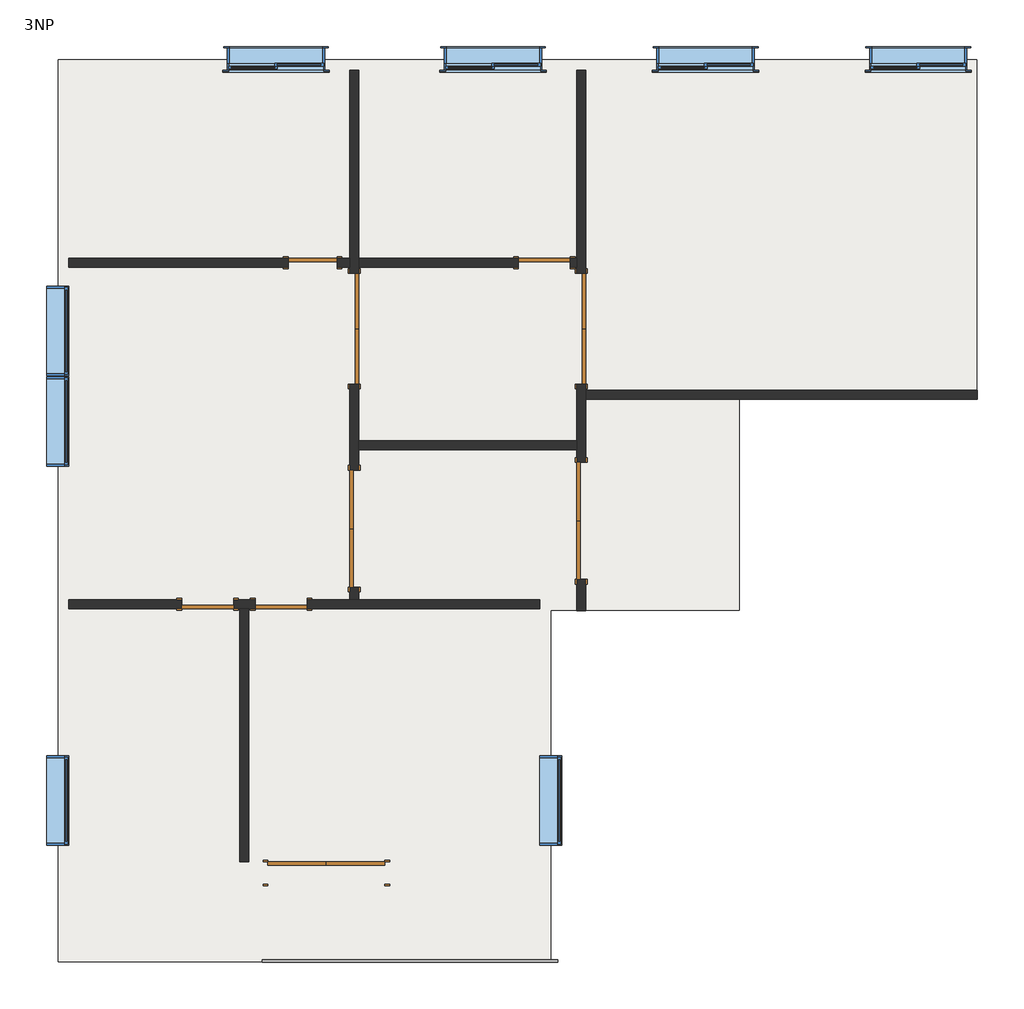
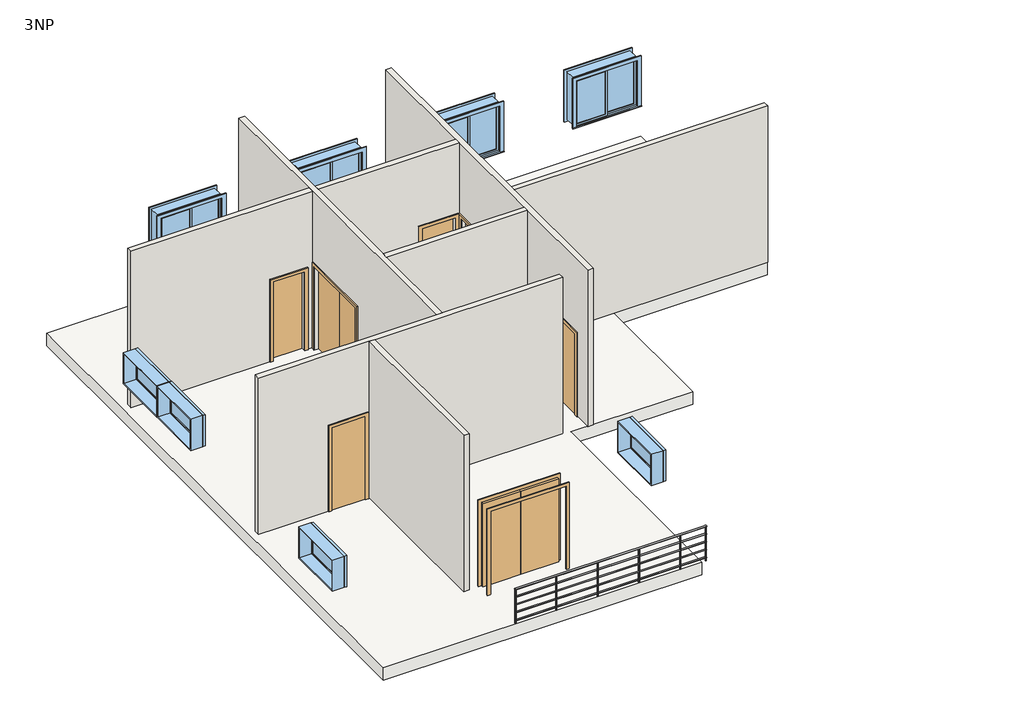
# One storey: 9 doors, 8 walls, 8 windows, 1 railing, 1 slab.
"""IFC4 building model written with IfcOpenShell, lengths in millimetres."""

from ifc_helpers import new_model, si_unit, frame, origin, place, context, project, spatial, polyline, outline, extrude, faceted_brep, transform, mapped, element, save
from components import m_double_flush_1730_x_2134mm_ea805d98, m_double_flush_1830_x_2083mm_7a28c534, m_double_flush_1830_x_2134mm_224c2c1d, m_single_flush_0762_x_2032mm_93de2473, m_single_flush_0813_x_2134mm_bf4bb56d, m_single_flush_0813_x_2134mm_cfdfac75, railing_900mm_pipe_c553a1ad, m_fixed_1400_x_0800mm_a23a53e8, m_sliding_with_trim_1830_x_1220mm_f8e2f31e

model = new_model("IFC4")

# Units and contexts
model_context = context("Model", 3, world=origin())
ifc_project = project(units=[si_unit("LENGTHUNIT", "METRE", prefix="MILLI")], contexts=[model_context])

# Site, building, storey
site = spatial("IfcSite", under=ifc_project)
building = spatial("IfcBuilding", under=site)
storey = spatial("IfcBuildingStorey", under=building, Name="3NP", Elevation=8000.0)

# Doors
placement = place(None, origin())
m_double_flush_1730_x_2134mm_shape = m_double_flush_1730_x_2134mm_ea805d98(model_context)
element("IfcDoor", 1, ObjectType="M_Double-Flush : 1730 x 2134mm", at=placement, inside=storey, context=model_context, shape_type="MappedRepresentation", body=[
    mapped(m_double_flush_1730_x_2134mm_shape, transform((833.993045, 5665.0261065, 8000.0), x_axis=(0.0, 1.0, 0.0), y_axis=(-1.0, 0.0, 0.0), z_axis=(0.0, 0.0, 1.0))),
])
element("IfcDoor", 2, ObjectType="M_Double-Flush : 1730 x 2134mm", at=placement, inside=storey, context=model_context, shape_type="MappedRepresentation", body=[
    mapped(m_double_flush_1730_x_2134mm_shape, transform((-2716.006955, 5665.0261065, 8000.0), x_axis=(0.0, 1.0, 0.0), y_axis=(-1.0, 0.0, 0.0), z_axis=(0.0, 0.0, 1.0))),
])
m_double_flush_1830_x_2083mm_shape = m_double_flush_1830_x_2083mm_7a28c534(model_context)
element("IfcDoor", 3, ObjectType="M_Double-Flush : 1830 x 2083mm", at=placement, inside=storey, context=model_context, shape_type="MappedRepresentation", body=[
    mapped(m_double_flush_1830_x_2083mm_shape, transform((-2716.006955, 2539.8026806, 8000.0), x_axis=(0.0, 1.0, 0.0), y_axis=(-1.0, 0.0, 0.0), z_axis=(0.0, 0.0, 1.0))),
])
element("IfcDoor", 4, ObjectType="M_Double-Flush : 1830 x 2083mm", at=placement, inside=storey, context=model_context, shape_type="MappedRepresentation", body=[
    mapped(m_double_flush_1830_x_2083mm_shape, transform((833.993045, 2658.1003657, 8000.0), x_axis=(0.0, 1.0, 0.0), y_axis=(-1.0, 0.0, 0.0), z_axis=(0.0, 0.0, 1.0))),
])
m_double_flush_1830_x_2134mm_shape = m_double_flush_1830_x_2134mm_224c2c1d(model_context)
element("IfcDoor", 5, ObjectType="M_Double-Flush : 1830 x 2134mm", at=placement, inside=storey, context=model_context, shape_type="MappedRepresentation", body=[
    mapped(m_double_flush_1830_x_2134mm_shape, transform((-3151.8077176, -2850.1973194, 8000.0), x_axis=(0.9999999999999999, 0.0, 0.0), y_axis=(0.0, 0.9999999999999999, 0.0), z_axis=(0.0, 0.0, 1.0))),
])
m_single_flush_0762_x_2032mm_shape = m_single_flush_0762_x_2032mm_93de2473(model_context)
element("IfcDoor", 6, ObjectType="M_Single-Flush : 0762 x 2032mm", at=placement, inside=storey, context=model_context, shape_type="MappedRepresentation", body=[
    mapped(m_single_flush_0762_x_2032mm_shape, transform((-3366.256955, 6699.2761065, 8000.0), x_axis=(1.0, 0.0, 0.0), y_axis=(0.0, 1.0, 0.0), z_axis=(0.0, 0.0, 1.0))),
])
m_single_flush_0813_x_2134mm_shape = m_single_flush_0813_x_2134mm_bf4bb56d(model_context)
element("IfcDoor", 7, ObjectType="M_Single-Flush : 0813 x 2134mm", at=placement, inside=storey, context=model_context, shape_type="MappedRepresentation", body=[
    mapped(m_single_flush_0813_x_2134mm_shape, transform((-5011.8077176, 1355.5526806, 8000.0), x_axis=(1.0, 0.0, 0.0), y_axis=(0.0, 1.0, 0.0), z_axis=(0.0, 0.0, 1.0))),
])
m_single_flush_0813_x_2134mm_2_shape = m_single_flush_0813_x_2134mm_cfdfac75(model_context)
element("IfcDoor", 8, ObjectType="M_Single-Flush : 0813 x 2134mm", at=placement, inside=storey, context=model_context, shape_type="MappedRepresentation", body=[
    mapped(m_single_flush_0813_x_2134mm_2_shape, transform((-3860.3077176, 1355.5526806, 8000.0), x_axis=(-1.0, 0.0, 0.0), y_axis=(0.0, -1.0, 0.0), z_axis=(0.0, 0.0, 1.0))),
])
element("IfcDoor", 9, ObjectType="M_Single-Flush : 0813 x 2134mm", at=placement, inside=storey, context=model_context, shape_type="MappedRepresentation", body=[
    mapped(m_single_flush_0813_x_2134mm_2_shape, transform((258.243045, 6699.2761065, 8000.0), x_axis=(1.0, 0.0, 0.0), y_axis=(0.0, 1.0, 0.0), z_axis=(0.0, 0.0, 1.0))),
])

# Railing
railing_900mm_pipe_shape = railing_900mm_pipe_c553a1ad(model_context)
element("IfcRailing", 10, ObjectType="900mm Pipe", at=placement, inside=storey, context=model_context, shape_type="MappedRepresentation", body=[
    mapped(railing_900mm_pipe_shape, transform((0.0, 0.0, 0.0), x_axis=(1.0, 0.0, 0.0), y_axis=(0.0, 1.0, 0.0), z_axis=(0.0, 0.0, 1.0))),
])

# Slab
element("IfcSlab", 11, ObjectType="Residential 320mm", at=placement, inside=storey, context=model_context, shape_type="SweptSolid", body=[
    extrude(outline(polyline([(-7345.3077176, 9876.6003657), (7023.993045, 9876.6003657), (7023.993045, 4561.5261065), (3308.993045, 4561.5261065), (3308.993045, 1259.8026806), (357.3775179, 1259.8026806), (357.3775179, -4240.1973194), (-7345.3077176, -4240.1973194), (-7345.3077176, 9876.6003657)])), frame((0.0, 0.0, 7680.0), z_axis=(0.0, 0.0, 1.0), x_axis=(1.0, 0.0, 0.0)), (0.0, 0.0, 1.0), 320.0),
])

# Walls
element("IfcWall", 12, ObjectType="Interior - 138mm Partition (1-hr)", at=placement, inside=storey, context=model_context, shape_type="Brep", body=[
    faceted_brep([(-4266.8077176, 1424.8026806, 10134.0), (-4266.8077176, 1424.8026806, 8000.0), (-4605.3077176, 1424.8026806, 8000.0), (-4605.3077176, 1424.8026806, 10134.0), (-5418.3077176, 1424.8026806, 10134.0), (-5418.3077176, 1424.8026806, 8000.0), (-7180.3077176, 1424.8026806, 8000.0), (-7180.3077176, 1424.8026806, 12000.0), (-2785.256955, 1424.8026806, 12000.0), (-2646.756955, 1424.8026806, 12000.0), (182.3775179, 1424.8026806, 12000.0), (182.3775179, 1424.8026806, 8000.0), (-2646.756955, 1424.8026806, 8000.0), (-2785.256955, 1424.8026806, 8000.0), (-3453.8077176, 1424.8026806, 8000.0), (-3453.8077176, 1424.8026806, 10134.0), (-4605.3077176, 1286.3026806, 8000.0), (-4505.3077176, 1286.3026806, 8000.0), (-4366.8077176, 1286.3026806, 8000.0), (-4266.8077176, 1286.3026806, 8000.0), (-4266.8077176, 1286.3026806, 10134.0), (-3453.8077176, 1286.3026806, 10134.0), (-3453.8077176, 1286.3026806, 8000.0), (182.3775179, 1286.3026806, 8000.0), (182.3775179, 1286.3026806, 12000.0), (-4366.8077176, 1286.3026806, 12000.0), (-4505.3077176, 1286.3026806, 12000.0), (-7180.3077176, 1286.3026806, 12000.0), (-7180.3077176, 1286.3026806, 8000.0), (-5418.3077176, 1286.3026806, 8000.0), (-5418.3077176, 1286.3026806, 10134.0), (-4605.3077176, 1286.3026806, 10134.0)], [[[0, 1, 2, 3, 4, 5, 6, 7, 8, 9, 10, 11, 12, 13, 14, 15]], [[16, 17, 18, 19, 20, 21, 22, 23, 24, 25, 26, 27, 28, 29, 30, 31]], [[2, 1, 19, 18, 17, 16]], [[29, 28, 6, 5]], [[14, 13, 12, 11, 23, 22]], [[10, 9, 8, 7, 27, 26, 25, 24]], [[7, 6, 28, 27]], [[11, 10, 24, 23]], [[3, 2, 16, 31]], [[4, 3, 31, 30]], [[5, 4, 30, 29]], [[20, 19, 1, 0]], [[21, 20, 0, 15]], [[22, 21, 15, 14]]]),
])
element("IfcWall", 13, ObjectType="Interior - 138mm Partition (1-hr)", at=placement, inside=storey, context=model_context, shape_type="SweptSolid", body=[
    extrude(outline(polyline([(-4505.3077176, -2675.1973194), (-4505.3077176, 1286.3026806), (-4366.8077176, 1286.3026806), (-4366.8077176, -2675.1973194), (-4505.3077176, -2675.1973194)])), frame((0.0, 0.0, 8000.0), z_axis=(0.0, 0.0, 1.0), x_axis=(1.0, 0.0, 0.0)), (0.0, 0.0, 1.0), 4000.0),
])
element("IfcWall", 14, ObjectType="Interior - 138mm Partition (1-hr)", at=placement, inside=storey, context=model_context, shape_type="Brep", body=[
    faceted_brep([(903.243045, 3573.1003657, 10083.0), (903.243045, 3573.1003657, 8000.0), (903.243045, 4561.5261065, 8000.0), (903.243045, 4700.0261065, 8000.0), (903.243045, 4800.0261065, 8000.0), (903.243045, 4800.0261065, 10134.0), (903.243045, 6530.0261065, 10134.0), (903.243045, 6530.0261065, 8000.0), (903.243045, 9711.6003657, 8000.0), (903.243045, 9711.6003657, 12000.0), (903.243045, 4700.0261065, 12000.0), (903.243045, 4561.5261065, 12000.0), (903.243045, 1249.8026806, 12000.0), (903.243045, 1249.8026806, 8000.0), (903.243045, 1743.1003657, 8000.0), (903.243045, 1743.1003657, 10083.0), (764.743045, 4800.0261065, 8000.0), (764.743045, 3911.6003657, 8000.0), (764.743045, 3773.1003657, 8000.0), (764.743045, 3573.1003657, 8000.0), (764.743045, 3573.1003657, 10083.0), (764.743045, 1743.1003657, 10083.0), (764.743045, 1743.1003657, 8000.0), (764.743045, 1249.8026806, 8000.0), (764.743045, 1249.8026806, 12000.0), (764.743045, 3773.1003657, 12000.0), (764.743045, 3911.6003657, 12000.0), (764.743045, 6630.0261065, 12000.0), (764.743045, 6768.5261065, 12000.0), (764.743045, 9711.6003657, 12000.0), (764.743045, 9711.6003657, 8000.0), (764.743045, 6768.5261065, 8000.0), (764.743045, 6630.0261065, 8000.0), (764.743045, 6530.0261065, 8000.0), (764.743045, 6530.0261065, 10134.0), (764.743045, 4800.0261065, 10134.0), (833.993045, 9711.6003657, 8000.0), (833.993045, 9711.6003657, 12000.0)], [[[0, 1, 2, 3, 4, 5, 6, 7, 8, 9, 10, 11, 12, 13, 14, 15]], [[16, 17, 18, 19, 20, 21, 22, 23, 24, 25, 26, 27, 28, 29, 30, 31, 32, 33, 34, 35]], [[8, 7, 33, 32, 31, 30, 36]], [[4, 3, 2, 1, 19, 18, 17, 16]], [[14, 13, 23, 22]], [[12, 11, 10, 9, 37, 29, 28, 27, 26, 25, 24]], [[13, 12, 24, 23]], [[9, 8, 36, 30, 29, 37]], [[34, 33, 7, 6]], [[35, 34, 6, 5]], [[16, 35, 5, 4]], [[20, 19, 1, 0]], [[21, 20, 0, 15]], [[22, 21, 15, 14]]]),
])
element("IfcWall", 15, ObjectType="Interior - 138mm Partition (1-hr)", at=placement, inside=storey, context=model_context, shape_type="SweptSolid", body=[
    extrude(outline(polyline([(-2646.756955, 3911.6003657), (764.743045, 3911.6003657), (764.743045, 3773.1003657), (-2646.756955, 3773.1003657), (-2646.756955, 3911.6003657)])), frame((0.0, 0.0, 8000.0), z_axis=(0.0, 0.0, 1.0), x_axis=(1.0, 0.0, 0.0)), (0.0, 0.0, 1.0), 4000.0),
])
element("IfcWall", 16, ObjectType="Interior - 138mm Partition (1-hr)", at=placement, inside=storey, context=model_context, shape_type="Brep", body=[
    faceted_brep([(-2646.756955, 3454.8026806, 10083.0), (-2646.756955, 3454.8026806, 8000.0), (-2646.756955, 3773.1003657, 8000.0), (-2646.756955, 3911.6003657, 8000.0), (-2646.756955, 4800.0261065, 8000.0), (-2646.756955, 4800.0261065, 10134.0), (-2646.756955, 6530.0261065, 10134.0), (-2646.756955, 6530.0261065, 8000.0), (-2646.756955, 6630.0261065, 8000.0), (-2646.756955, 6768.5261065, 8000.0), (-2646.756955, 9711.6003657, 8000.0), (-2646.756955, 9711.6003657, 12000.0), (-2646.756955, 6768.5261065, 12000.0), (-2646.756955, 6630.0261065, 12000.0), (-2646.756955, 3911.6003657, 12000.0), (-2646.756955, 3773.1003657, 12000.0), (-2646.756955, 1424.8026806, 12000.0), (-2646.756955, 1424.8026806, 8000.0), (-2646.756955, 1624.8026806, 8000.0), (-2646.756955, 1624.8026806, 10083.0), (-2785.256955, 4800.0261065, 8000.0), (-2785.256955, 3454.8026806, 8000.0), (-2785.256955, 3454.8026806, 10083.0), (-2785.256955, 1624.8026806, 10083.0), (-2785.256955, 1624.8026806, 8000.0), (-2785.256955, 1424.8026806, 8000.0), (-2785.256955, 1424.8026806, 12000.0), (-2785.256955, 6630.0261065, 12000.0), (-2785.256955, 6768.5261065, 12000.0), (-2785.256955, 9711.6003657, 12000.0), (-2785.256955, 9711.6003657, 8000.0), (-2785.256955, 6768.5261065, 8000.0), (-2785.256955, 6630.0261065, 8000.0), (-2785.256955, 6530.0261065, 8000.0), (-2785.256955, 6530.0261065, 10134.0), (-2785.256955, 4800.0261065, 10134.0)], [[[0, 1, 2, 3, 4, 5, 6, 7, 8, 9, 10, 11, 12, 13, 14, 15, 16, 17, 18, 19]], [[20, 21, 22, 23, 24, 25, 26, 27, 28, 29, 30, 31, 32, 33, 34, 35]], [[10, 9, 8, 7, 33, 32, 31, 30]], [[4, 3, 2, 1, 21, 20]], [[18, 17, 25, 24]], [[16, 15, 14, 13, 12, 11, 29, 28, 27, 26]], [[17, 16, 26, 25]], [[11, 10, 30, 29]], [[34, 33, 7, 6]], [[35, 34, 6, 5]], [[20, 35, 5, 4]], [[22, 21, 1, 0]], [[23, 22, 0, 19]], [[24, 23, 19, 18]]]),
])
element("IfcWall", 17, ObjectType="Interior - 138mm Partition (1-hr)", at=placement, inside=storey, context=model_context, shape_type="SweptSolid", body=[
    extrude(outline(polyline([(10134.0, 664.743045), (8000.0, 664.743045), (8000.0, 764.743045), (12000.0, 764.743045), (12000.0, -2646.756955), (8000.0, -2646.756955), (8000.0, -148.256955), (10134.0, -148.256955), (10134.0, 664.743045)])), frame((0.0, 6630.0261065, 0.0), z_axis=(0.0, 1.0, 0.0), x_axis=(0.0, 0.0, 1.0)), (0.0, 0.0, 1.0), 138.5),
])
element("IfcWall", 18, ObjectType="Interior - 138mm Partition (1-hr)", at=placement, inside=storey, context=model_context, shape_type="SweptSolid", body=[
    extrude(outline(polyline([(10032.0, -2985.256955), (8000.0, -2985.256955), (8000.0, -2785.256955), (12000.0, -2785.256955), (12000.0, -7180.3077176), (8000.0, -7180.3077176), (8000.0, -3747.256955), (10032.0, -3747.256955), (10032.0, -2985.256955)])), frame((0.0, 6630.0261065, 0.0), z_axis=(0.0, 1.0, 0.0), x_axis=(0.0, 0.0, 1.0)), (0.0, 0.0, 1.0), 138.5),
])
element("IfcWall", 19, ObjectType="Interior - 138mm Partition (1-hr)", at=placement, inside=storey, context=model_context, shape_type="SweptSolid", body=[
    extrude(outline(polyline([(7033.993045, 4561.5261065), (903.243045, 4561.5261065), (903.243045, 4700.0261065), (7033.993045, 4700.0261065), (7033.993045, 4561.5261065)])), frame((0.0, 0.0, 8000.0), z_axis=(0.0, 0.0, 1.0), x_axis=(1.0, 0.0, 0.0)), (0.0, 0.0, 1.0), 4000.0),
])

# Windows
m_fixed_1400_x_0800mm_shape = m_fixed_1400_x_0800mm_a23a53e8(model_context)
element("IfcWindow", 20, ObjectType="M_Fixed : 1400 x 0800mm", at=placement, inside=storey, context=model_context, shape_type="MappedRepresentation", body=[
    mapped(m_fixed_1400_x_0800mm_shape, transform((-7368.3077176, -1717.6973194, 8000.0), x_axis=(0.0, -1.0, 0.0), y_axis=(1.0, 0.0, 0.0), z_axis=(0.0, 0.0, 1.0))),
])
element("IfcWindow", 21, ObjectType="M_Fixed : 1400 x 0800mm", at=placement, inside=storey, context=model_context, shape_type="MappedRepresentation", body=[
    mapped(m_fixed_1400_x_0800mm_shape, transform((-7368.3077176, 4217.3026806, 8000.0), x_axis=(0.0, -1.0, 0.0), y_axis=(1.0, 0.0, 0.0), z_axis=(0.0, 0.0, 1.0))),
])
element("IfcWindow", 22, ObjectType="M_Fixed : 1400 x 0800mm", at=placement, inside=storey, context=model_context, shape_type="MappedRepresentation", body=[
    mapped(m_fixed_1400_x_0800mm_shape, transform((-7368.3077176, 5632.3026806, 8000.0), x_axis=(0.0, -1.0, 0.0), y_axis=(1.0, 0.0, 0.0), z_axis=(0.0, 0.0, 1.0))),
])
element("IfcWindow", 23, ObjectType="M_Fixed : 1400 x 0800mm", at=placement, inside=storey, context=model_context, shape_type="MappedRepresentation", body=[
    mapped(m_fixed_1400_x_0800mm_shape, transform((344.3775179, -1717.6973194, 8000.0), x_axis=(0.0, -1.0, 0.0), y_axis=(1.0, 0.0, 0.0), z_axis=(0.0, 0.0, 1.0))),
])
m_sliding_with_trim_1830_x_1220mm_shape = m_sliding_with_trim_1830_x_1220mm_f8e2f31e(model_context)
element("IfcWindow", 24, ObjectType="M_Sliding with Trim : 1830 x 1220mm", at=placement, inside=storey, context=model_context, shape_type="MappedRepresentation", body=[
    mapped(m_sliding_with_trim_1830_x_1220mm_shape, transform((6107.6922824, 9886.6003657, 8000.0), x_axis=(-1.0, 0.0, 0.0), y_axis=(0.0, -1.0, 0.0), z_axis=(0.0, 0.0, 1.0))),
])
element("IfcWindow", 25, ObjectType="M_Sliding with Trim : 1830 x 1220mm", at=placement, inside=storey, context=model_context, shape_type="MappedRepresentation", body=[
    mapped(m_sliding_with_trim_1830_x_1220mm_shape, transform((2781.6922824, 9886.6003657, 8000.0), x_axis=(-1.0, 0.0, 0.0), y_axis=(0.0, -1.0, 0.0), z_axis=(0.0, 0.0, 1.0))),
])
element("IfcWindow", 26, ObjectType="M_Sliding with Trim : 1830 x 1220mm", at=placement, inside=storey, context=model_context, shape_type="MappedRepresentation", body=[
    mapped(m_sliding_with_trim_1830_x_1220mm_shape, transform((-544.3077176, 9886.6003657, 8000.0), x_axis=(-1.0, 0.0, 0.0), y_axis=(0.0, -1.0, 0.0), z_axis=(0.0, 0.0, 1.0))),
])
element("IfcWindow", 27, ObjectType="M_Sliding with Trim : 1830 x 1220mm", at=placement, inside=storey, context=model_context, shape_type="MappedRepresentation", body=[
    mapped(m_sliding_with_trim_1830_x_1220mm_shape, transform((-3940.1577176, 9886.6003657, 8000.0), x_axis=(-1.0, 0.0, 0.0), y_axis=(0.0, -1.0, 0.0), z_axis=(0.0, 0.0, 1.0))),
])

save(model, "model.ifc")
